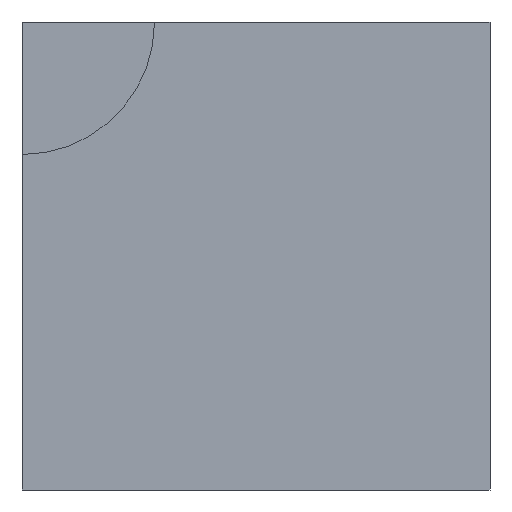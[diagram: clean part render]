
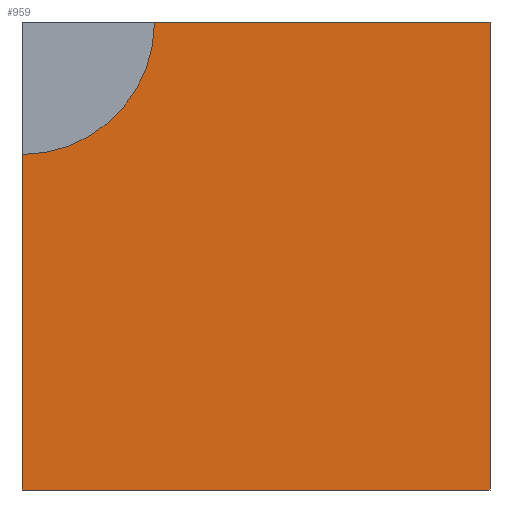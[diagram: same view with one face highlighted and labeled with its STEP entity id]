
A CAD part, left-side view. The second image highlights one B-rep face of the part: STEP entity #959.
In plain terms, the highlighted planar face has unit normal (-1, 0, 0).
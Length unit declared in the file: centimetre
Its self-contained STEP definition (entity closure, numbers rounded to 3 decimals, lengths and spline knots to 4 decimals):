
#48 = VERTEX_POINT ( 'NONE', #1655 ) ;
#97 = DIRECTION ( 'NONE',  ( 0., 0., 1. ) ) ;
#102 = PLANE ( 'NONE',  #820 ) ;
#115 = LINE ( 'NONE', #558, #118 ) ;
#118 = VECTOR ( 'NONE', #953, 100. ) ;
#249 = VECTOR ( 'NONE', #265, 100. ) ;
#265 = DIRECTION ( 'NONE',  ( 0., -1., 0. ) ) ;
#317 = DIRECTION ( 'NONE',  ( 0., -1., 0. ) ) ;
#318 = LINE ( 'NONE', #1505, #807 ) ;
#335 = CARTESIAN_POINT ( 'NONE',  ( 0., 1000., 1000. ) ) ;
#378 = AXIS2_PLACEMENT_3D ( 'NONE', #1871, #1686, #97 ) ;
#388 = VECTOR ( 'NONE', #317, 100. ) ;
#491 = EDGE_CURVE ( 'NONE', #998, #1605, #1807, .T. ) ;
#504 = CARTESIAN_POINT ( 'NONE',  ( 0., 1000., 0. ) ) ;
#554 = DIRECTION ( 'NONE',  ( 0., 0., -1. ) ) ;
#558 = CARTESIAN_POINT ( 'NONE',  ( 0., 0., 1000. ) ) ;
#767 = CIRCLE ( 'NONE', #378, 283.0879 ) ;
#804 = CARTESIAN_POINT ( 'NONE',  ( 0., 0., 1000. ) ) ;
#807 = VECTOR ( 'NONE', #1783, 100. ) ;
#820 = AXIS2_PLACEMENT_3D ( 'NONE', #1293, #1875, #554 ) ;
#953 = DIRECTION ( 'NONE',  ( 0., 0., -1. ) ) ;
#959 = ADVANCED_FACE ( 'NONE', ( #1726 ), #102, .F. ) ;
#998 = VERTEX_POINT ( 'NONE', #1439 ) ;
#1009 = LINE ( 'NONE', #504, #249 ) ;
#1029 = ORIENTED_EDGE ( 'NONE', *, *, #1427, .T. ) ;
#1233 = ORIENTED_EDGE ( 'NONE', *, *, #1691, .T. ) ;
#1293 = CARTESIAN_POINT ( 'NONE',  ( 0., 1000., 1000. ) ) ;
#1427 = EDGE_CURVE ( 'NONE', #48, #1462, #318, .T. ) ;
#1439 = CARTESIAN_POINT ( 'NONE',  ( 0., 716.9121, 1000. ) ) ;
#1462 = VERTEX_POINT ( 'NONE', #1489 ) ;
#1489 = CARTESIAN_POINT ( 'NONE',  ( 0., 1000., 0. ) ) ;
#1505 = CARTESIAN_POINT ( 'NONE',  ( 0., 1000., 1000. ) ) ;
#1559 = VERTEX_POINT ( 'NONE', #1830 ) ;
#1580 = EDGE_CURVE ( 'NONE', #1605, #1559, #115, .T. ) ;
#1596 = ORIENTED_EDGE ( 'NONE', *, *, #1580, .F. ) ;
#1605 = VERTEX_POINT ( 'NONE', #804 ) ;
#1609 = ORIENTED_EDGE ( 'NONE', *, *, #491, .F. ) ;
#1630 = EDGE_LOOP ( 'NONE', ( #1609, #1634, #1029, #1233, #1596 ) ) ;
#1634 = ORIENTED_EDGE ( 'NONE', *, *, #1747, .F. ) ;
#1655 = CARTESIAN_POINT ( 'NONE',  ( 0., 1000., 716.9121 ) ) ;
#1686 = DIRECTION ( 'NONE',  ( -1., 0., 0. ) ) ;
#1691 = EDGE_CURVE ( 'NONE', #1462, #1559, #1009, .T. ) ;
#1726 = FACE_OUTER_BOUND ( 'NONE', #1630, .T. ) ;
#1747 = EDGE_CURVE ( 'NONE', #48, #998, #767, .T. ) ;
#1783 = DIRECTION ( 'NONE',  ( 0., 0., -1. ) ) ;
#1807 = LINE ( 'NONE', #335, #388 ) ;
#1830 = CARTESIAN_POINT ( 'NONE',  ( 0., 0., 0. ) ) ;
#1871 = CARTESIAN_POINT ( 'NONE',  ( 0., 1000., 1000. ) ) ;
#1875 = DIRECTION ( 'NONE',  ( 1., 0., 0. ) ) ;
